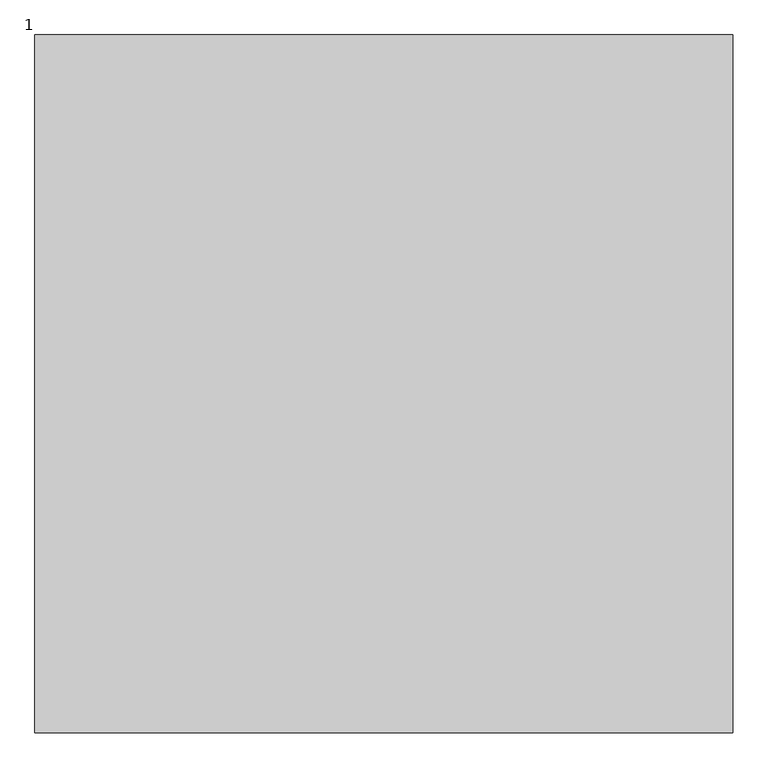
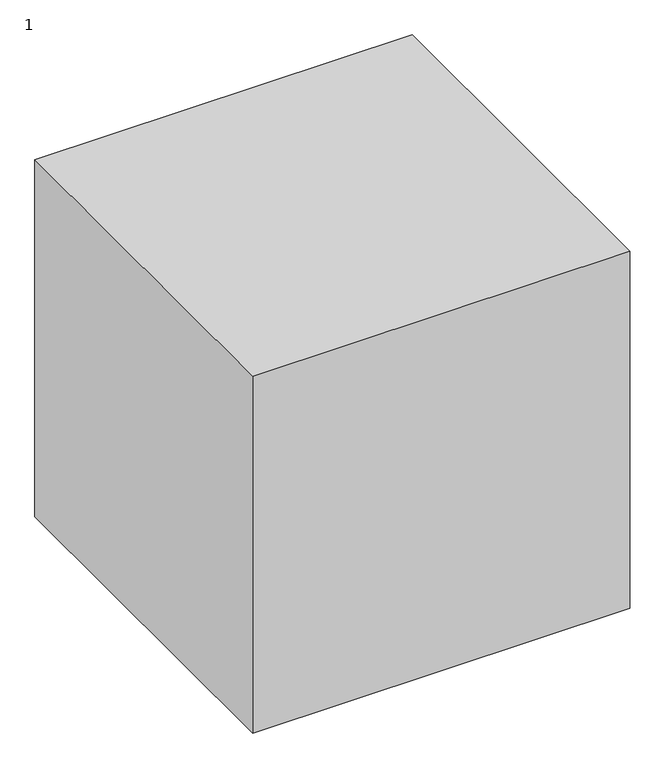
"""IFC4 building model written with IfcOpenShell, lengths in millimetres: proxy geometry, 1241111 : 1."""

from ifc_helpers import new_model, si_unit, origin, origin_with_axes, place, context, project, spatial, polyline, outline, extrude, source, transform, mapped, element, save


def proxy_1_2fb2cb73(model_context):
    return source(origin(), model_context, "Body", "SweptSolid", [
        extrude(outline(polyline([(27692.0243292, -8664.7705528), (27692.0243292, -9664.7705528), (26692.0243292, -9664.7705528), (26692.0243292, -8664.7705528), (27692.0243292, -8664.7705528)])), origin_with_axes(), (0.0, 0.0, 1.0), 1000.0),
    ])


if __name__ == "__main__":
    model = new_model("IFC4")
    model_context = context("Model", 3, world=origin())
    ifc_project = project(units=[si_unit("LENGTHUNIT", "METRE", prefix="MILLI")], contexts=[model_context])
    site = spatial("IfcSite", under=ifc_project)
    building = spatial("IfcBuilding", under=site)
    placement = place(None, origin())
    proxy_1_shape = proxy_1_2fb2cb73(model_context)
    element("IfcBuildingElementProxy", 1, Name="1241111 : 1", ObjectType="1241111 : 1", at=placement, inside=building, context=model_context, shape_type="MappedRepresentation", body=[
        mapped(proxy_1_shape, transform((0.0, 0.0, 0.0), x_axis=(1.0, 0.0, 0.0), y_axis=(0.0, 1.0, 0.0), z_axis=(0.0, 0.0, 1.0))),
    ])
    save(model, "model.ifc")
